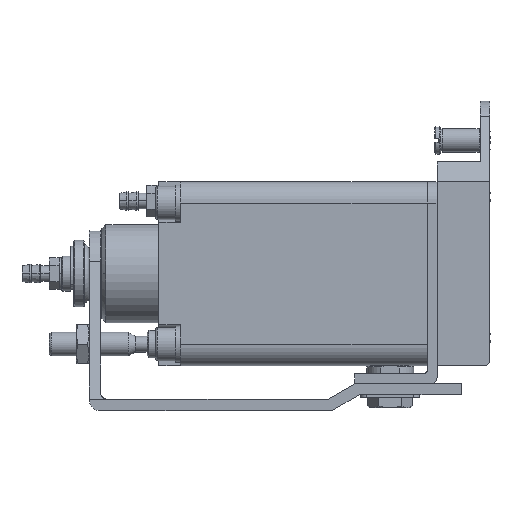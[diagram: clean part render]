
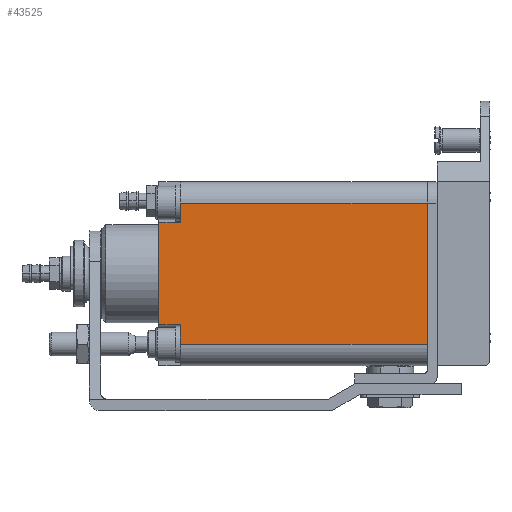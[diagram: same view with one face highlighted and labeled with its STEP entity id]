
A CAD part, left-side view. The second image highlights one B-rep face of the part: STEP entity #43525.
In plain terms, the highlighted planar face has unit normal (-1, 0, 0).
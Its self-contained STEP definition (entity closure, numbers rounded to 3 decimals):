
#653 = CARTESIAN_POINT ( 'NONE',  ( -21., 0., -18. ) ) ;
#1260 = CARTESIAN_POINT ( 'NONE',  ( -21., 0., 18. ) ) ;
#1361 = CARTESIAN_POINT ( 'NONE',  ( -21., 63., -13. ) ) ;
#1484 = DIRECTION ( 'NONE',  ( 0., 0., 1. ) ) ;
#1594 = VERTEX_POINT ( 'NONE', #1260 ) ;
#1661 = EDGE_CURVE ( 'NONE', #29902, #28312, #25336, .T. ) ;
#2125 = VERTEX_POINT ( 'NONE', #1361 ) ;
#4072 = AXIS2_PLACEMENT_3D ( 'NONE', #42776, #22069, #1484 ) ;
#4893 = ORIENTED_EDGE ( 'NONE', *, *, #19649, .T. ) ;
#5497 = CARTESIAN_POINT ( 'NONE',  ( -21., 63., 13. ) ) ;
#6307 = CARTESIAN_POINT ( 'NONE',  ( -21., 0., 0. ) ) ;
#6879 = ORIENTED_EDGE ( 'NONE', *, *, #38130, .T. ) ;
#6920 = LINE ( 'NONE', #6307, #15024 ) ;
#7296 = VECTOR ( 'NONE', #9997, 1000. ) ;
#8181 = VECTOR ( 'NONE', #39359, 1000. ) ;
#8299 = PLANE ( 'NONE',  #4072 ) ;
#8352 = CARTESIAN_POINT ( 'NONE',  ( -21., 68.5, 0. ) ) ;
#8524 = DIRECTION ( 'NONE',  ( 0., 0., -1. ) ) ;
#8541 = CARTESIAN_POINT ( 'NONE',  ( -21., 62.75, -18. ) ) ;
#9997 = DIRECTION ( 'NONE',  ( 0., -1., 0. ) ) ;
#10406 = EDGE_CURVE ( 'NONE', #28312, #1594, #6920, .T. ) ;
#10653 = LINE ( 'NONE', #34947, #28872 ) ;
#10722 = VERTEX_POINT ( 'NONE', #27401 ) ;
#11865 = DIRECTION ( 'NONE',  ( 0., 0., 1. ) ) ;
#12112 = DIRECTION ( 'NONE',  ( 0., 0., -1. ) ) ;
#12301 = ORIENTED_EDGE ( 'NONE', *, *, #15315, .F. ) ;
#13071 = ORIENTED_EDGE ( 'NONE', *, *, #1661, .T. ) ;
#13149 = FACE_OUTER_BOUND ( 'NONE', #19957, .T. ) ;
#14567 = LINE ( 'NONE', #15293, #31722 ) ;
#15024 = VECTOR ( 'NONE', #37293, 1000. ) ;
#15293 = CARTESIAN_POINT ( 'NONE',  ( -21., 63., 0. ) ) ;
#15315 = EDGE_CURVE ( 'NONE', #38785, #33717, #25550, .T. ) ;
#15985 = LINE ( 'NONE', #8352, #23966 ) ;
#16563 = CARTESIAN_POINT ( 'NONE',  ( -21., 68.5, 13. ) ) ;
#17426 = VERTEX_POINT ( 'NONE', #20399 ) ;
#17800 = DIRECTION ( 'NONE',  ( 0., 1., 0. ) ) ;
#19426 = LINE ( 'NONE', #34939, #27479 ) ;
#19649 = EDGE_CURVE ( 'NONE', #1594, #17426, #10653, .T. ) ;
#19772 = EDGE_CURVE ( 'NONE', #10722, #38785, #15985, .T. ) ;
#19957 = EDGE_LOOP ( 'NONE', ( #12301, #40956, #6879, #27034, #13071, #37645, #4893, #34567 ) ) ;
#20399 = CARTESIAN_POINT ( 'NONE',  ( -21., 63., 18. ) ) ;
#20534 = EDGE_CURVE ( 'NONE', #2125, #29902, #21183, .T. ) ;
#21183 = LINE ( 'NONE', #29152, #31415 ) ;
#21237 = DIRECTION ( 'NONE',  ( 0., -1., 0. ) ) ;
#21514 = CARTESIAN_POINT ( 'NONE',  ( -21., 63., -18. ) ) ;
#22069 = DIRECTION ( 'NONE',  ( -1., 0., 0. ) ) ;
#23581 = CARTESIAN_POINT ( 'NONE',  ( -21., 65.75, 13. ) ) ;
#23966 = VECTOR ( 'NONE', #11865, 1000. ) ;
#25336 = LINE ( 'NONE', #8541, #8181 ) ;
#25550 = LINE ( 'NONE', #23581, #7296 ) ;
#27034 = ORIENTED_EDGE ( 'NONE', *, *, #20534, .T. ) ;
#27401 = CARTESIAN_POINT ( 'NONE',  ( -21., 68.5, -13. ) ) ;
#27479 = VECTOR ( 'NONE', #21237, 1000. ) ;
#28312 = VERTEX_POINT ( 'NONE', #653 ) ;
#28872 = VECTOR ( 'NONE', #17800, 1000. ) ;
#29152 = CARTESIAN_POINT ( 'NONE',  ( -21., 63., 0. ) ) ;
#29902 = VERTEX_POINT ( 'NONE', #21514 ) ;
#31415 = VECTOR ( 'NONE', #12112, 1000. ) ;
#31722 = VECTOR ( 'NONE', #8524, 1000. ) ;
#33717 = VERTEX_POINT ( 'NONE', #5497 ) ;
#34567 = ORIENTED_EDGE ( 'NONE', *, *, #44595, .T. ) ;
#34939 = CARTESIAN_POINT ( 'NONE',  ( -21., 62.75, -13. ) ) ;
#34947 = CARTESIAN_POINT ( 'NONE',  ( -21., 62.75, 18. ) ) ;
#37293 = DIRECTION ( 'NONE',  ( 0., 0., 1. ) ) ;
#37645 = ORIENTED_EDGE ( 'NONE', *, *, #10406, .T. ) ;
#38130 = EDGE_CURVE ( 'NONE', #10722, #2125, #19426, .T. ) ;
#38785 = VERTEX_POINT ( 'NONE', #16563 ) ;
#39359 = DIRECTION ( 'NONE',  ( 0., -1., 0. ) ) ;
#40956 = ORIENTED_EDGE ( 'NONE', *, *, #19772, .F. ) ;
#42776 = CARTESIAN_POINT ( 'NONE',  ( -21., 55.85, -21.6 ) ) ;
#43525 = ADVANCED_FACE ( 'NONE', ( #13149 ), #8299, .T. ) ;
#44595 = EDGE_CURVE ( 'NONE', #17426, #33717, #14567, .T. ) ;
